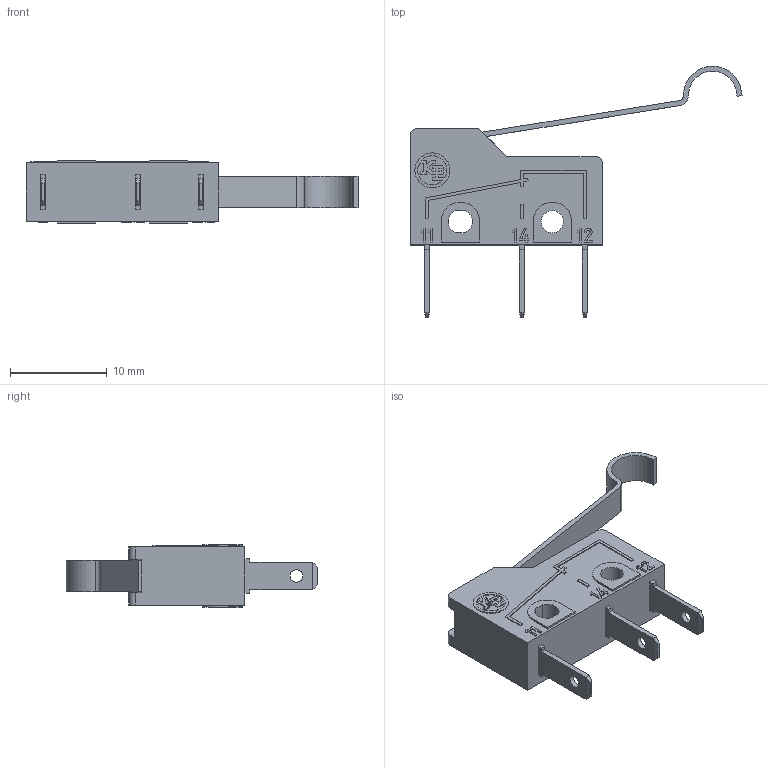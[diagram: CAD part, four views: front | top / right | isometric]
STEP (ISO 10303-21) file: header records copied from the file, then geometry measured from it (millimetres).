
FILE_DESCRIPTION(('Microrutor Subminiatura Alavanca c/ Roldana Simulada'),'2;1');
FILE_NAME('E:\WorkFolder\Bibl\3DWeb\kp_mm_mm$d4$f.stp','2011-12-13T14:55:20',('DIE'),('KAP'),'Autodesk Inventor 2011','Autodesk Inventor 2011','Direitos reservados. Proibido reproducao, cedencia ou revelacao de conteudo a terceiros, salvo com autorizacao.');
FILE_SCHEMA(('AUTOMOTIVE_DESIGN { 1 0 10303 214 1 1 1 1 }'));
Length unit declared in the file: millimetre
Products named in the file (1): Part1
Bounding box: 34.27 x 25.94 x 6.4 mm (x, y, z)
Volume: 1230.8 mm3; surface area: 1324.3 mm2
Topology: 1 solids, 1 shells, 286 faces, 764 edges, 505 vertices
Faces by surface type: plane 251, cylinder 35
Full cylindrical faces by diameter (mm): 1.3 x3, 2.3 x1, 3.6 x1
Entity records: 9086 total; most frequent: CARTESIAN_POINT 1550, ORIENTED_EDGE 1518, DIRECTION 1404, EDGE_CURVE 759, VECTOR 688, LINE 688, VERTEX_POINT 504, AXIS2_PLACEMENT_3D 358
